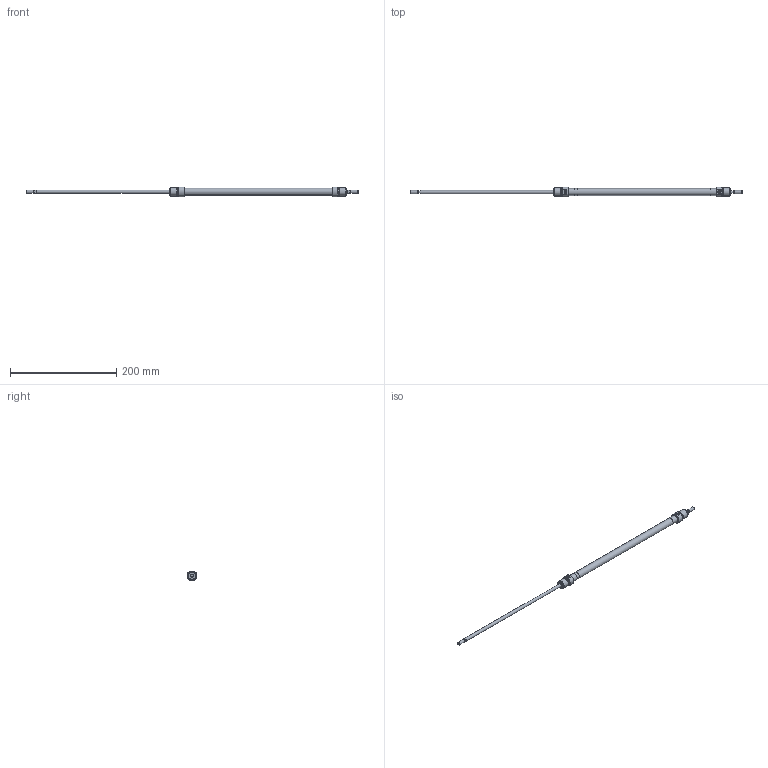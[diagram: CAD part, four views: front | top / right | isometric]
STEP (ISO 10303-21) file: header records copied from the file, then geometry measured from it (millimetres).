
FILE_DESCRIPTION( ( 'STEP AP203' ), '1' );
FILE_NAME( '//expscmdclustefs.cadenas.external/client_exchange/iodir/jobs/output/wkb68361175_no0/STEP/M101-012-0250-M__0__2_03.stp', ' ', ( ' ' ), ( ' ' ), 'PSStep 15.0.47', 'PARTsolutions', ' ' );
FILE_SCHEMA( ( 'CONFIG_CONTROL_DESIGN' ) );
Length unit declared in the file: millimetre
Products named in the file (3): M101-012-0250-M [0]; HI_M101-012-0250-M-[0]-z; HI_M101-012-0250-M-[0]-k
Assembly tree (2 placements, depth 2):
  M101-012-0250-M [0]
    HI_M101-012-0250-M-[0]-z
    HI_M101-012-0250-M-[0]-k
Bounding box: 626 x 18.73 x 17.86 mm (x, y, z)
Volume: 37730.2 mm3; surface area: 38875.1 mm2
Topology: 2 solids, 2 shells, 65 faces, 129 edges, 80 vertices
Faces by surface type: plane 26, cylinder 23, cone 14, torus 2
Full cylindrical faces by diameter (mm): 4.134 x2, 4.773 x2, 6 x6, 12 x2, 13.3 x1, 14.16 x4, 16 x4
Entity records: 1670 total; most frequent: CARTESIAN_POINT 324, DIRECTION 280, ORIENTED_EDGE 184, AXIS2_PLACEMENT_3D 128, EDGE_LOOP 116, EDGE_CURVE 92, FACE_OUTER_BOUND 88, VERTEX_POINT 76
